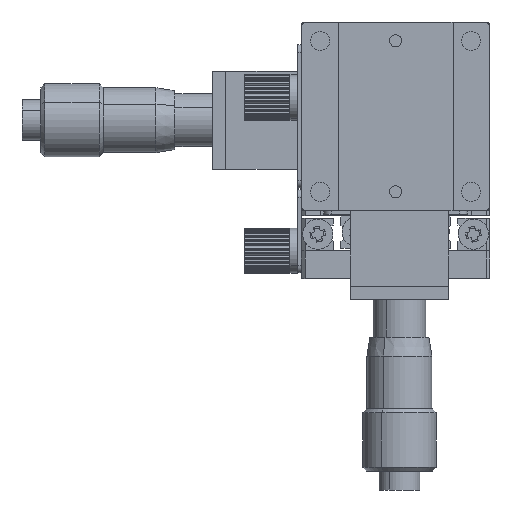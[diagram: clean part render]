
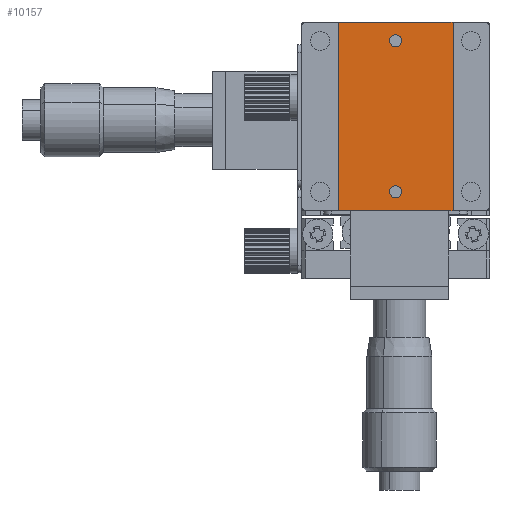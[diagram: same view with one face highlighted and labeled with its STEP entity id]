
A CAD part, front view. The second image highlights one B-rep face of the part: STEP entity #10157.
In plain terms, the highlighted planar face has unit normal (0, -1, 0).
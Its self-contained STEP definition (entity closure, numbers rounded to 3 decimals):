
#365 = ORIENTED_EDGE ( 'NONE', *, *, #13004, .F. ) ;
#601 = CARTESIAN_POINT ( 'NONE',  ( -7.6, 0.2, 0. ) ) ;
#925 = DIRECTION ( 'NONE',  ( 0., 0., 1. ) ) ;
#1327 = CARTESIAN_POINT ( 'NONE',  ( 0., 0.2, 22.5 ) ) ;
#1550 = ORIENTED_EDGE ( 'NONE', *, *, #13342, .F. ) ;
#1790 = CARTESIAN_POINT ( 'NONE',  ( -7.6, 0.2, 25. ) ) ;
#2326 = EDGE_CURVE ( 'NONE', #15004, #15344, #11478, .T. ) ;
#2517 = VERTEX_POINT ( 'NONE', #601 ) ;
#2609 = DIRECTION ( 'NONE',  ( 0., -1., 0. ) ) ;
#2804 = DIRECTION ( 'NONE',  ( 0., 0., -1. ) ) ;
#3200 = LINE ( 'NONE', #7853, #15404 ) ;
#3643 = ORIENTED_EDGE ( 'NONE', *, *, #13949, .F. ) ;
#3679 = CARTESIAN_POINT ( 'NONE',  ( 0., 0.2, 22.5 ) ) ;
#3706 = CARTESIAN_POINT ( 'NONE',  ( 7.6, 0.2, 25. ) ) ;
#3895 = DIRECTION ( 'NONE',  ( 0., -1., 0. ) ) ;
#3938 = EDGE_LOOP ( 'NONE', ( #13058, #9020 ) ) ;
#4128 = PLANE ( 'NONE',  #11175 ) ;
#4300 = FACE_BOUND ( 'NONE', #12243, .T. ) ;
#4440 = AXIS2_PLACEMENT_3D ( 'NONE', #3679, #3895, #12635 ) ;
#4609 = CARTESIAN_POINT ( 'NONE',  ( 7.6, 0.2, 0. ) ) ;
#4989 = EDGE_CURVE ( 'NONE', #2517, #9228, #5414, .T. ) ;
#5288 = LINE ( 'NONE', #5476, #10340 ) ;
#5414 = LINE ( 'NONE', #11506, #14889 ) ;
#5476 = CARTESIAN_POINT ( 'NONE',  ( 7.6, 0.2, 0. ) ) ;
#6291 = AXIS2_PLACEMENT_3D ( 'NONE', #8668, #14796, #16135 ) ;
#6353 = CARTESIAN_POINT ( 'NONE',  ( 0., 0.2, 21.7 ) ) ;
#6435 = DIRECTION ( 'NONE',  ( 0., -1., 0. ) ) ;
#6723 = DIRECTION ( 'NONE',  ( -1., 0., 0. ) ) ;
#6982 = ORIENTED_EDGE ( 'NONE', *, *, #4989, .F. ) ;
#7094 = ORIENTED_EDGE ( 'NONE', *, *, #12710, .T. ) ;
#7178 = CARTESIAN_POINT ( 'NONE',  ( 7.6, 0.2, 0. ) ) ;
#7377 = CARTESIAN_POINT ( 'NONE',  ( 0., 0.2, 3.3 ) ) ;
#7381 = LINE ( 'NONE', #7178, #10887 ) ;
#7715 = CARTESIAN_POINT ( 'NONE',  ( 0., 0.2, 2.5 ) ) ;
#7853 = CARTESIAN_POINT ( 'NONE',  ( 7.6, 0.2, 25. ) ) ;
#7988 = FACE_OUTER_BOUND ( 'NONE', #8769, .T. ) ;
#8668 = CARTESIAN_POINT ( 'NONE',  ( 0., 0.2, 2.5 ) ) ;
#8682 = CARTESIAN_POINT ( 'NONE',  ( 0., 0.2, 1.7 ) ) ;
#8769 = EDGE_LOOP ( 'NONE', ( #7094, #6982, #1550, #14923 ) ) ;
#9020 = ORIENTED_EDGE ( 'NONE', *, *, #2326, .F. ) ;
#9038 = CARTESIAN_POINT ( 'NONE',  ( 7.6, 0.2, 0. ) ) ;
#9096 = DIRECTION ( 'NONE',  ( -1., 0., 0. ) ) ;
#9147 = CIRCLE ( 'NONE', #16054, 0.8 ) ;
#9228 = VERTEX_POINT ( 'NONE', #1790 ) ;
#9279 = DIRECTION ( 'NONE',  ( 0., 1., 0. ) ) ;
#9642 = CARTESIAN_POINT ( 'NONE',  ( 0., 0.2, 23.3 ) ) ;
#9832 = CIRCLE ( 'NONE', #6291, 0.8 ) ;
#10157 = ADVANCED_FACE ( 'NONE', ( #15308, #4300, #7988 ), #4128, .F. ) ;
#10210 = CIRCLE ( 'NONE', #11005, 0.8 ) ;
#10340 = VECTOR ( 'NONE', #6723, 1000. ) ;
#10887 = VECTOR ( 'NONE', #925, 1000. ) ;
#11005 = AXIS2_PLACEMENT_3D ( 'NONE', #1327, #2609, #11328 ) ;
#11175 = AXIS2_PLACEMENT_3D ( 'NONE', #9038, #9279, #14428 ) ;
#11328 = DIRECTION ( 'NONE',  ( 0., 0., -1. ) ) ;
#11478 = CIRCLE ( 'NONE', #4440, 0.8 ) ;
#11506 = CARTESIAN_POINT ( 'NONE',  ( -7.6, 0.2, 0. ) ) ;
#11640 = VERTEX_POINT ( 'NONE', #7377 ) ;
#12243 = EDGE_LOOP ( 'NONE', ( #3643, #365 ) ) ;
#12446 = VERTEX_POINT ( 'NONE', #8682 ) ;
#12635 = DIRECTION ( 'NONE',  ( 0., 0., -1. ) ) ;
#12710 = EDGE_CURVE ( 'NONE', #15228, #9228, #3200, .T. ) ;
#13004 = EDGE_CURVE ( 'NONE', #11640, #12446, #9832, .T. ) ;
#13058 = ORIENTED_EDGE ( 'NONE', *, *, #13153, .F. ) ;
#13153 = EDGE_CURVE ( 'NONE', #15344, #15004, #10210, .T. ) ;
#13342 = EDGE_CURVE ( 'NONE', #13678, #2517, #5288, .T. ) ;
#13678 = VERTEX_POINT ( 'NONE', #4609 ) ;
#13949 = EDGE_CURVE ( 'NONE', #12446, #11640, #9147, .T. ) ;
#14428 = DIRECTION ( 'NONE',  ( 0., 0., 1. ) ) ;
#14796 = DIRECTION ( 'NONE',  ( 0., -1., 0. ) ) ;
#14889 = VECTOR ( 'NONE', #15721, 1000. ) ;
#14923 = ORIENTED_EDGE ( 'NONE', *, *, #15769, .T. ) ;
#15004 = VERTEX_POINT ( 'NONE', #9642 ) ;
#15228 = VERTEX_POINT ( 'NONE', #3706 ) ;
#15308 = FACE_BOUND ( 'NONE', #3938, .T. ) ;
#15344 = VERTEX_POINT ( 'NONE', #6353 ) ;
#15404 = VECTOR ( 'NONE', #9096, 1000. ) ;
#15721 = DIRECTION ( 'NONE',  ( 0., 0., 1. ) ) ;
#15769 = EDGE_CURVE ( 'NONE', #13678, #15228, #7381, .T. ) ;
#16054 = AXIS2_PLACEMENT_3D ( 'NONE', #7715, #6435, #2804 ) ;
#16135 = DIRECTION ( 'NONE',  ( 0., 0., -1. ) ) ;
